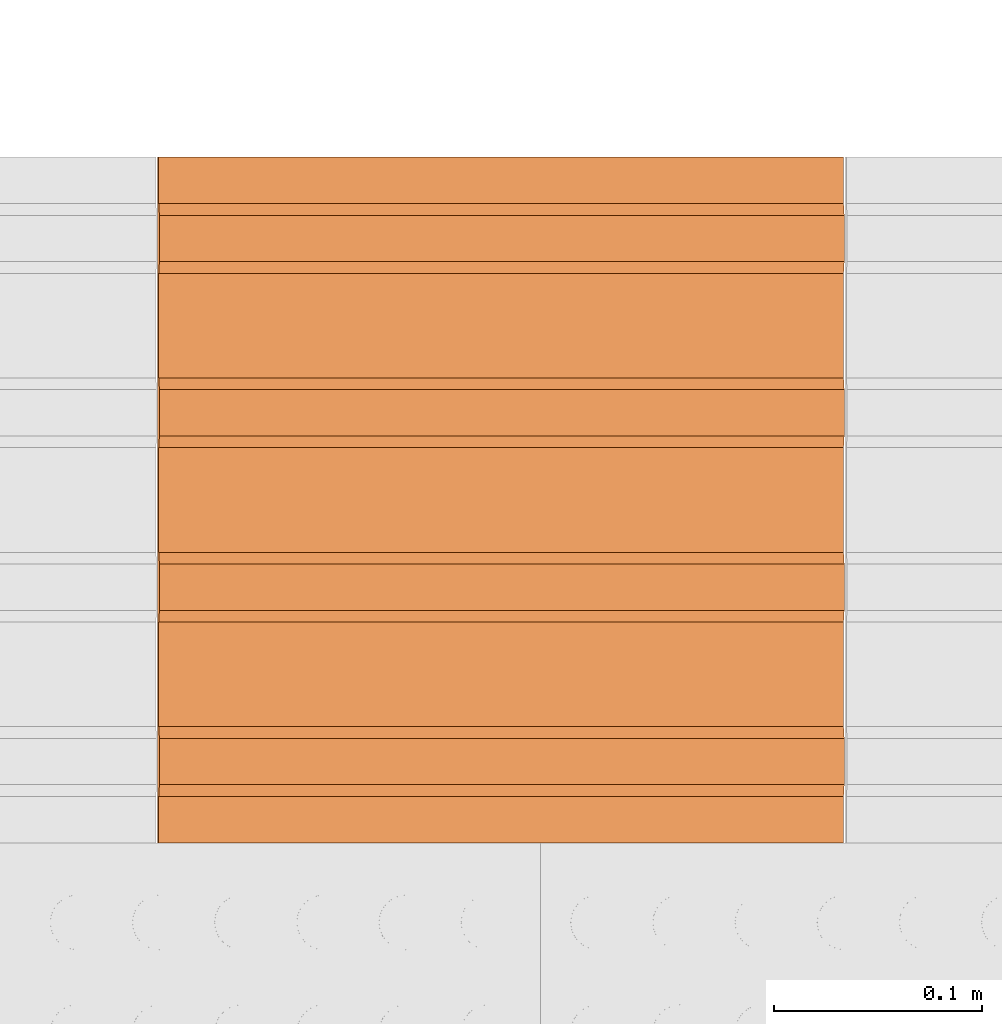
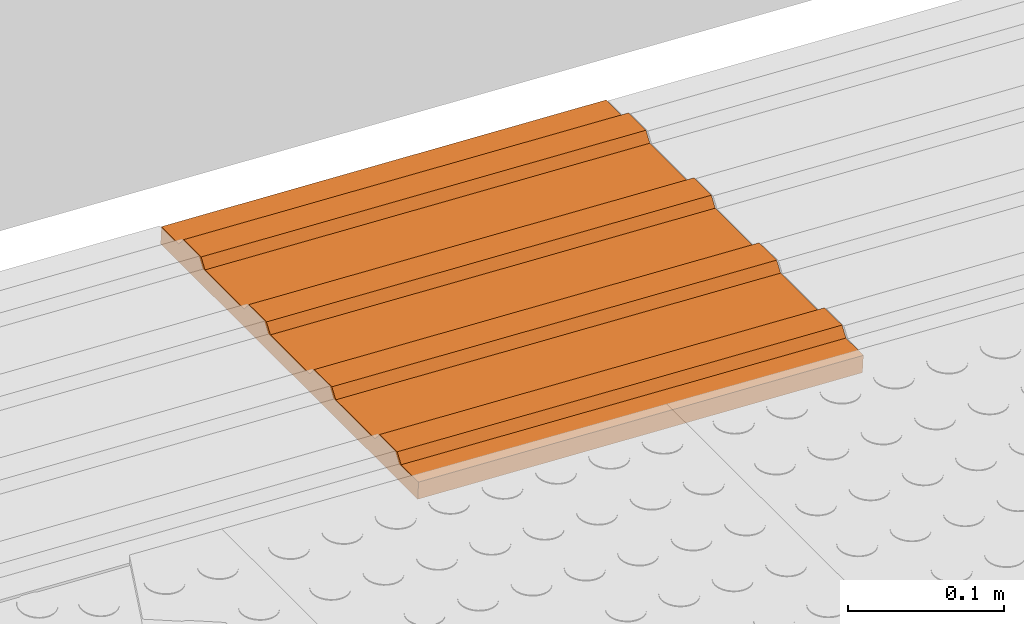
# One storey, part 160 of 237: 1 proxy.
"""IFC2X3 building model written with IfcOpenShell, lengths in millimetres."""

import ifcopenshell
import ifcopenshell.guid

model = None  # the IFC model being written
_history = None  # IfcOwnerHistory: only IFC2X3 demands one
_inside = {}  # id of a spatial element -> (the spatial element, [elements in it])
_under = {}  # id of a project, library or spatial element -> (it, [spatial elements below it])
_declared = {}  # id of a project -> (the project, [libraries it declares])
_typed = {}  # id of a type object -> (the type object, [elements of that type])
_made_of = {}  # id of a material, layer set ... -> (it, [elements and type objects made of it])


def new_model(schema):
    """Start an empty IFC model of exactly this schema.

    Asked for "IFC4X3", IfcOpenShell would pick the latest addendum, in which some entities
    have other attributes; the version numbers below select the first issue.
    IFC2X3 requires an IfcOwnerHistory on every rooted entity: one is made here for all.
    """
    global model, _history
    if schema == "IFC4X3":
        model = ifcopenshell.file(schema_version=(4, 3, 0, 0))
    else:
        model = ifcopenshell.file(schema=schema)
    _inside.clear()
    _under.clear()
    _declared.clear()
    _typed.clear()
    _made_of.clear()
    _history = None
    if model.schema == "IFC2X3":
        org = make("IfcOrganization", Name="unknown")
        user = make(
            "IfcPersonAndOrganization",
            ThePerson=make("IfcPerson", FamilyName="unknown"),
            TheOrganization=org,
        )
        app = make(
            "IfcApplication",
            ApplicationDeveloper=org,
            Version="unknown",
            ApplicationFullName="unknown",
            ApplicationIdentifier="unknown",
        )
        _history = make(
            "IfcOwnerHistory",
            OwningUser=user,
            OwningApplication=app,
            ChangeAction="ADDED",
            CreationDate=0,
        )
    return model


def make(cls, **values):
    """One entity of the class cls with the attributes given. An attribute that is None is left unset."""
    return model.create_entity(
        cls, **{name: value for name, value in values.items() if value is not None}
    )


def entity(cls, *values):
    """Any entity or typed value of the class cls, its attributes in the order of the schema. None: left unset."""
    e = model.create_entity(cls)
    for i, value in enumerate(values):
        if value is not None:
            e[i] = value
    return e


def rooted(cls, **values):
    """An entity with a GlobalId (a new one), such as an element, a storey or a relation."""
    return make(cls, GlobalId=ifcopenshell.guid.new(), OwnerHistory=_history, **values)


def si_unit(unit_type, name, prefix=None):
    """IfcSIUnit, for example si_unit("LENGTHUNIT", "METRE", prefix="MILLI")."""
    return make("IfcSIUnit", UnitType=unit_type, Prefix=prefix, Name=name)


def converted_unit(unit_type, name, factor, base, dimensions=None, offset=None):
    """IfcConversionBasedUnit, such as the inch: factor (a typed value) times the base unit."""
    return make(
        "IfcConversionBasedUnit"
        if offset is None
        else "IfcConversionBasedUnitWithOffset",
        ConversionOffset=offset,
        Dimensions=None
        if dimensions is None
        else entity("IfcDimensionalExponents", *dimensions),
        UnitType=unit_type,
        Name=name,
        ConversionFactor=make(
            "IfcMeasureWithUnit", ValueComponent=factor, UnitComponent=base
        ),
    )


def derived_unit(unit_type, elements):
    """IfcDerivedUnit: a product of units, each with its exponent."""
    return make(
        "IfcDerivedUnit",
        Elements=[
            make("IfcDerivedUnitElement", Unit=unit, Exponent=power)
            for unit, power in elements
        ],
        UnitType=unit_type,
    )


def money_unit(currency):
    """IfcMonetaryUnit."""
    return make("IfcMonetaryUnit", Currency=currency)


def assignment(units):
    """IfcUnitAssignment: the units of a project."""
    return None if units is None else make("IfcUnitAssignment", Units=units)


def point(xyz):
    """IfcCartesianPoint."""
    return None if xyz is None else make("IfcCartesianPoint", Coordinates=xyz)


def direction(xyz):
    """IfcDirection."""
    return None if xyz is None else make("IfcDirection", DirectionRatios=xyz)


def frame(location, z_axis=None, x_axis=None):
    """IfcAxis2Placement3D, a coordinate frame: its origin and axes. An axis left out is left unset."""
    return make(
        "IfcAxis2Placement3D",
        Location=point(location),
        Axis=direction(z_axis),
        RefDirection=direction(x_axis),
    )


def origin_with_axes():
    """The frame at (0, 0, 0) with the z axis (0, 0, 1) and the x axis (1, 0, 0) written out."""
    return frame((0.0, 0.0, 0.0), z_axis=(0.0, 0.0, 1.0), x_axis=(1.0, 0.0, 0.0))


def place(relative_to, where):
    """IfcLocalPlacement: puts the frame where relative to a parent placement (None: the world)."""
    return make(
        "IfcLocalPlacement", PlacementRelTo=relative_to, RelativePlacement=where
    )


def context(
    kind, dimensions, precision=None, world=None, true_north=None, identifier=None
):
    """IfcGeometricRepresentationContext, for example the 3D "Model" context."""
    return make(
        "IfcGeometricRepresentationContext",
        ContextIdentifier=identifier,
        ContextType=kind,
        CoordinateSpaceDimension=dimensions,
        Precision=precision,
        WorldCoordinateSystem=world,
        TrueNorth=true_north,
    )


def subcontext(parent, identifier, kind, view, scale=None):
    """IfcGeometricRepresentationSubContext, for example "Body" below "Model"."""
    return make(
        "IfcGeometricRepresentationSubContext",
        ContextIdentifier=identifier,
        ContextType=kind,
        ParentContext=parent,
        TargetScale=scale,
        TargetView=view,
    )


def project(units=None, contexts=None):
    """IfcProject with its units and contexts."""
    return rooted(
        "IfcProject",
        Name="project",
        RepresentationContexts=contexts,
        UnitsInContext=assignment(units),
    )


def spatial(cls, under=None, at=None, **own):
    """A site, building, storey or space (cls), placed at a placement, below another one or the project."""
    s = rooted(cls, ObjectPlacement=at, **own)
    if under is not None:
        _under.setdefault(under.id(), (under, []))[1].append(s)
    return s


def faces_of(points, faces, orient=None, outer=None):
    """IfcFace entities. A face is a list of loops; a loop is a list of indices into points, from 0.

    orient and outer hold one flag for each loop. By default every Orientation is true, the
    first loop of a face is its IfcFaceOuterBound and the others are IfcFaceBound.
    """
    made = []
    for i, loops in enumerate(faces):
        bounds = []
        for j, loop in enumerate(loops):
            is_outer = j == 0 if outer is None else outer[i][j]
            bounds.append(
                make(
                    "IfcFaceOuterBound" if is_outer else "IfcFaceBound",
                    Bound=make("IfcPolyLoop", Polygon=[points[k] for k in loop]),
                    Orientation=True if orient is None else orient[i][j],
                )
            )
        made.append(make("IfcFace", Bounds=bounds))
    return made


def open_shell(faces, orient=None, outer=None):
    """The faces of one IfcOpenShell. surface_model builds it on its shared points."""
    return ("IfcOpenShell", faces, orient, outer)


def surface_model(cls, points, shells):
    """IfcFaceBasedSurfaceModel or IfcShellBasedSurfaceModel (cls): surfaces that need not close."""
    shared = [point(p) for p in points]
    made = [make(c, CfsFaces=faces_of(shared, fs, o, b)) for c, fs, o, b in shells]
    if cls == "IfcFaceBasedSurfaceModel":
        return make(cls, FbsmFaces=made)
    return make(cls, SbsmBoundary=made)


def shape(context_of_items, identifier, shape_type, items):
    """IfcShapeRepresentation: the items that make up one representation, for example the "Body"."""
    return make(
        "IfcShapeRepresentation",
        ContextOfItems=context_of_items,
        RepresentationIdentifier=identifier,
        RepresentationType=shape_type,
        Items=items,
    )


def source(mapping_origin, context_of_items, identifier, shape_type, items):
    """IfcRepresentationMap: a shape defined once, which mapped items show again and again."""
    return make(
        "IfcRepresentationMap",
        MappingOrigin=mapping_origin,
        MappedRepresentation=shape(context_of_items, identifier, shape_type, items),
    )


def transform(
    local_origin,
    x_axis=None,
    y_axis=None,
    z_axis=None,
    scale=None,
    scale2=None,
    scale3=None,
    uniform=True,
):
    """IfcCartesianTransformationOperator3D, or its non-uniform kind. x_axis, y_axis, z_axis: its Axis1, 2, 3."""
    if uniform:
        return make(
            "IfcCartesianTransformationOperator3D",
            Axis1=direction(x_axis),
            Axis2=direction(y_axis),
            LocalOrigin=point(local_origin),
            Scale=scale,
            Axis3=direction(z_axis),
        )
    return make(
        "IfcCartesianTransformationOperator3DnonUniform",
        Axis1=direction(x_axis),
        Axis2=direction(y_axis),
        LocalOrigin=point(local_origin),
        Scale=scale,
        Axis3=direction(z_axis),
        Scale2=scale2,
        Scale3=scale3,
    )


def mapped(mapping_source, mapping_target):
    """IfcMappedItem: shows the shape of a source again, moved by a transform."""
    return make(
        "IfcMappedItem", MappingSource=mapping_source, MappingTarget=mapping_target
    )


def made_of(thing, what):
    """Note that an element or type object is made of a material, layer set ...; save() writes the relation."""
    if what is not None:
        _made_of.setdefault(what.id(), (what, []))[1].append(thing)
    return thing


def type_object(cls, material=None, **own):
    """A type object (cls), such as IfcWallType, which elements share."""
    return made_of(rooted(cls, **own), material)


def element(
    cls,
    number,
    at=None,
    inside=None,
    cuts=None,
    type_object=None,
    material=None,
    context=None,
    identifier="Body",
    shape_type=None,
    held_by="IfcProductDefinitionShape",
    body=None,
    shapes=None,
    **own,
):
    """One element of the class cls, such as IfcWall. Its Tag is "e" and its number.

    at: its placement. inside: the storey or other place that contains it. cuts: it is an
    opening in that element (IfcRelVoidsElement). A single representation is given by context,
    identifier, shape_type and body (its items); several are given by shapes. held_by: the class
    of the entity that holds the representations. save() writes the other relations.
    """
    e = rooted(cls, Tag="e%d" % number, ObjectPlacement=at, **own)
    if body is not None:
        shapes = [shape(context, identifier, shape_type, body)]
    if shapes is not None:
        e.Representation = make(held_by, Representations=shapes)
    if inside is not None:
        _inside.setdefault(inside.id(), (inside, []))[1].append(e)
    if cuts is not None:
        rooted(
            "IfcRelVoidsElement", RelatingBuildingElement=cuts, RelatedOpeningElement=e
        )
    if type_object is not None:
        _typed.setdefault(type_object.id(), (type_object, []))[1].append(e)
    return made_of(e, material)


def aggregate(whole, parts):
    """IfcRelAggregates: a whole, such as a stair, and the parts it consists of."""
    return rooted("IfcRelAggregates", RelatingObject=whole, RelatedObjects=parts)


def save(model, path):
    """Write the relations noted so far, then the file.

    IfcRelAggregates (storeys below a building ...), IfcRelContainedInSpatialStructure (elements
    in a storey), IfcRelDefinesByType, IfcRelAssociatesMaterial and IfcRelDeclares: one each for
    every whole, place, type object, material and project.
    """
    for whole, parts in _under.values():
        aggregate(whole, parts)
    for where, things in _inside.values():
        rooted(
            "IfcRelContainedInSpatialStructure",
            RelatedElements=things,
            RelatingStructure=where,
        )
    for kind, things in _typed.values():
        rooted("IfcRelDefinesByType", RelatedObjects=things, RelatingType=kind)
    for what, things in _made_of.values():
        rooted("IfcRelAssociatesMaterial", RelatedObjects=things, RelatingMaterial=what)
    for by, libraries in _declared.values():
        rooted("IfcRelDeclares", RelatingContext=by, RelatedDefinitions=libraries)
    model.write(path)


model = new_model("IFC2X3")

# Units and contexts
model_context = context("Model", 3, precision=0.01, world=origin_with_axes(), true_north=direction((0.0, 1.0)))
body_context = subcontext(model_context, "Body", "Model", "MODEL_VIEW")
ifc_project = project(units=[si_unit("LENGTHUNIT", "METRE", prefix="MILLI"), si_unit("AREAUNIT", "SQUARE_METRE"), si_unit("VOLUMEUNIT", "CUBIC_METRE"), converted_unit("PLANEANGLEUNIT", "DEGREE", entity("IfcPlaneAngleMeasure", 0.0174532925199), si_unit("PLANEANGLEUNIT", "RADIAN"), dimensions=[0, 0, 0, 0, 0, 0, 0]), money_unit("USD"), converted_unit("TIMEUNIT", "Year", entity("IfcTimeMeasure", 31556926.0), si_unit("TIMEUNIT", "SECOND"), dimensions=[0, 0, 1, 0, 0, 0, 0]), si_unit("MASSUNIT", "GRAM", prefix="KILO"), si_unit("THERMODYNAMICTEMPERATUREUNIT", "DEGREE_CELSIUS"), si_unit("LUMINOUSINTENSITYUNIT", "LUMEN"), si_unit("ENERGYUNIT", "JOULE", prefix="MEGA"), derived_unit("THERMALCONDUCTANCEUNIT", [(si_unit("POWERUNIT", "WATT"), 1), (si_unit("LENGTHUNIT", "METRE"), -1), (si_unit("THERMODYNAMICTEMPERATUREUNIT", "KELVIN"), -1)]), derived_unit("SPECIFICHEATCAPACITYUNIT", [(si_unit("ENERGYUNIT", "JOULE"), 1), (si_unit("MASSUNIT", "GRAM", prefix="KILO"), -1), (si_unit("THERMODYNAMICTEMPERATUREUNIT", "KELVIN"), -1)]), derived_unit("MASSDENSITYUNIT", [(si_unit("MASSUNIT", "GRAM", prefix="KILO"), 1), (si_unit("VOLUMEUNIT", "CUBIC_METRE"), -1)])], contexts=[model_context])

# Site, building, storey
site_placement = place(None, origin_with_axes())
site = spatial("IfcSite", under=ifc_project, at=site_placement, Name="Local", CompositionType="ELEMENT")
building_placement = place(site_placement, origin_with_axes())
building = spatial("IfcBuilding", under=site, at=building_placement, Name="Construção", CompositionType="ELEMENT")
storey_placement = place(building_placement, origin_with_axes())
storey = spatial("IfcBuildingStorey", under=building, at=storey_placement, Name="Pavimento Térreo", CompositionType="ELEMENT", Elevation=0.0)

# Proxy
building_element_proxy_type = type_object("IfcBuildingElementProxyType", Name="Piso Direcional 27", PredefinedType="NOTDEFINED")
shared_shape = source(origin_with_axes(), body_context, "Body", "SurfaceModel", [
    surface_model("IfcShellBasedSurfaceModel", [(-0.196792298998, -47.258225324, 4.02371099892), (329.409233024, -47.258225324, 20.1441350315), (329.083567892, -41.665004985, 26.8028426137), (-0.522457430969, -41.665004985, 10.6824185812)], [open_shell([[[0, 1, 2, 3]]])]),
    surface_model("IfcShellBasedSurfaceModel", [(330.060563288, -153.529411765, 6.82671986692), (330.060563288, 176.470588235, 6.82671986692), (329.409233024, 176.470588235, 20.1441350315), (329.409233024, 154.097706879, 20.1441350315), (329.083567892, 148.50448654, 26.8028426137), (329.083567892, 126.131605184, 26.8028426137), (329.409233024, 120.538384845, 20.1441350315), (329.409233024, 70.1994017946, 20.1441350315), (329.083567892, 64.6061814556, 26.8028426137), (329.083567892, 42.2333000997, 26.8028426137), (329.409233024, 36.6400797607, 20.1441350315), (329.409233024, -13.6989032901, 20.1441350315), (329.083567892, -19.2921236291, 26.8028426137), (329.083567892, -41.665004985, 26.8028426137), (329.409233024, -47.258225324, 20.1441350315), (329.409233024, -97.5972083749, 20.1441350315), (329.083567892, -103.190428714, 26.8028426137), (329.083567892, -125.56331007, 26.8028426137), (329.409233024, -131.156530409, 20.1441350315), (329.409233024, -153.529411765, 20.1441350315)], [open_shell([[[0, 1, 2, 3, 4, 5, 6, 7, 8, 9, 10, 11, 12, 13, 14, 15, 16, 17, 18, 19]]])]),
    surface_model("IfcShellBasedSurfaceModel", [(-0.522457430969, -19.2921236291, 10.6824185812), (329.083567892, -19.2921236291, 26.8028426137), (329.409233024, -13.6989032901, 20.1441350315), (-0.196792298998, -13.6989032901, 4.02371099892)], [open_shell([[[0, 1, 2, 3]]])]),
    surface_model("IfcShellBasedSurfaceModel", [(-0.522457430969, -103.190428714, 10.6824185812), (329.083567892, -103.190428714, 26.8028426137), (329.409233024, -97.5972083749, 20.1441350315), (-0.196792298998, -97.5972083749, 4.02371099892)], [open_shell([[[0, 1, 2, 3]]])]),
    surface_model("IfcShellBasedSurfaceModel", [(-0.522457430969, 64.6061814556, 10.6824185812), (329.083567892, 64.6061814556, 26.8028426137), (329.409233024, 70.1994017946, 20.1441350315), (-0.196792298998, 70.1994017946, 4.02371099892)], [open_shell([[[0, 1, 2, 3]]])]),
    surface_model("IfcShellBasedSurfaceModel", [(-0.196792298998, 36.6400797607, 4.02371099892), (329.409233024, 36.6400797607, 20.1441350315), (329.083567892, 42.2333000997, 26.8028426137), (-0.522457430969, 42.2333000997, 10.6824185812)], [open_shell([[[0, 1, 2, 3]]])]),
    surface_model("IfcShellBasedSurfaceModel", [(-0.196792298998, -131.156530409, 4.02371099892), (329.409233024, -131.156530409, 20.1441350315), (329.083567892, -125.56331007, 26.8028426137), (-0.522457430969, -125.56331007, 10.6824185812)], [open_shell([[[0, 1, 2, 3]]])]),
    surface_model("IfcShellBasedSurfaceModel", [(-0.196792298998, 176.470588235, 4.02371099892), (-0.196792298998, 154.097706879, 4.02371099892), (329.409233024, 154.097706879, 20.1441350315), (329.409233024, 176.470588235, 20.1441350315)], [open_shell([[[0, 1, 2, 3]]])]),
    surface_model("IfcShellBasedSurfaceModel", [(-0.196792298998, 120.538384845, 4.02371099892), (329.409233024, 120.538384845, 20.1441350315), (329.083567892, 126.131605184, 26.8028426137), (-0.522457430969, 126.131605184, 10.6824185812)], [open_shell([[[0, 1, 2, 3]]])]),
    surface_model("IfcShellBasedSurfaceModel", [(-0.522457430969, 148.50448654, 10.6824185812), (329.083567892, 148.50448654, 26.8028426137), (329.409233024, 154.097706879, 20.1441350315), (-0.196792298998, 154.097706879, 4.02371099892)], [open_shell([[[0, 1, 2, 3]]])]),
    surface_model("IfcShellBasedSurfaceModel", [(-0.196792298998, 36.6400797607, 4.02371099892), (-0.196792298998, -13.6989032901, 4.02371099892), (329.409233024, -13.6989032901, 20.1441350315), (329.409233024, 36.6400797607, 20.1441350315)], [open_shell([[[0, 1, 2, 3]]])]),
    surface_model("IfcShellBasedSurfaceModel", [(-0.196792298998, 120.538384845, 4.02371099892), (-0.196792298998, 70.1994017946, 4.02371099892), (329.409233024, 70.1994017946, 20.1441350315), (329.409233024, 120.538384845, 20.1441350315)], [open_shell([[[0, 1, 2, 3]]])]),
    surface_model("IfcShellBasedSurfaceModel", [(-0.522457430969, 148.50448654, 10.6824185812), (-0.522457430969, 126.131605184, 10.6824185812), (329.083567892, 126.131605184, 26.8028426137), (329.083567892, 148.50448654, 26.8028426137)], [open_shell([[[0, 1, 2, 3]]])]),
    surface_model("IfcShellBasedSurfaceModel", [(-0.196792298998, 120.538384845, 4.02371099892), (-0.522457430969, 126.131605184, 10.6824185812), (-0.522457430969, 148.50448654, 10.6824185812), (-0.196792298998, 154.097706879, 4.02371099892), (-0.196792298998, 176.470588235, 4.02371099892), (0.454537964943, 176.470588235, -9.29370416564), (0.454537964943, -153.529411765, -9.29370416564), (-0.196792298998, -153.529411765, 4.02371099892), (-0.196792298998, -131.156530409, 4.02371099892), (-0.522457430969, -125.56331007, 10.6824185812), (-0.522457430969, -103.190428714, 10.6824185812), (-0.196792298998, -97.5972083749, 4.02371099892), (-0.196792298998, -47.258225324, 4.02371099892), (-0.522457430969, -41.665004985, 10.6824185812), (-0.522457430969, -19.2921236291, 10.6824185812), (-0.196792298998, -13.6989032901, 4.02371099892), (-0.196792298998, 36.6400797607, 4.02371099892), (-0.522457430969, 42.2333000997, 10.6824185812), (-0.522457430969, 64.6061814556, 10.6824185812), (-0.196792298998, 70.1994017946, 4.02371099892)], [open_shell([[[0, 1, 2, 3, 4, 5, 6, 7, 8, 9, 10, 11, 12, 13, 14, 15, 16, 17, 18, 19]]])]),
    surface_model("IfcShellBasedSurfaceModel", [(329.083567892, -41.665004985, 26.8028426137), (329.083567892, -19.2921236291, 26.8028426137), (-0.522457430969, -19.2921236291, 10.6824185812), (-0.522457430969, -41.665004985, 10.6824185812)], [open_shell([[[0, 1, 2, 3]]])]),
    surface_model("IfcShellBasedSurfaceModel", [(-0.196792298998, -47.258225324, 4.02371099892), (-0.196792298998, -97.5972083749, 4.02371099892), (329.409233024, -97.5972083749, 20.1441350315), (329.409233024, -47.258225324, 20.1441350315)], [open_shell([[[0, 1, 2, 3]]])]),
    surface_model("IfcShellBasedSurfaceModel", [(329.083567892, 42.2333000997, 26.8028426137), (329.083567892, 64.6061814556, 26.8028426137), (-0.522457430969, 64.6061814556, 10.6824185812), (-0.522457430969, 42.2333000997, 10.6824185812)], [open_shell([[[0, 1, 2, 3]]])]),
    surface_model("IfcShellBasedSurfaceModel", [(329.083567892, -125.56331007, 26.8028426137), (329.083567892, -103.190428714, 26.8028426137), (-0.522457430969, -103.190428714, 10.6824185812), (-0.522457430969, -125.56331007, 10.6824185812)], [open_shell([[[0, 1, 2, 3]]])]),
    surface_model("IfcShellBasedSurfaceModel", [(330.060563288, 176.470588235, 6.82671986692), (0.454537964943, 176.470588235, -9.29370416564), (-0.196792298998, 176.470588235, 4.02371099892), (329.409233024, 176.470588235, 20.1441350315)], [open_shell([[[0, 1, 2, 3]]])]),
    surface_model("IfcShellBasedSurfaceModel", [(330.060563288, -153.529411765, 6.82671986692), (0.454537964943, -153.529411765, -9.29370416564), (0.454537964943, 176.470588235, -9.29370416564), (330.060563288, 176.470588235, 6.82671986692)], [open_shell([[[0, 1, 2, 3]]])]),
    surface_model("IfcShellBasedSurfaceModel", [(329.409233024, -153.529411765, 20.1441350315), (329.409233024, -131.156530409, 20.1441350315), (-0.196792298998, -131.156530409, 4.02371099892), (-0.196792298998, -153.529411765, 4.02371099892)], [open_shell([[[0, 1, 2, 3]]])]),
    surface_model("IfcShellBasedSurfaceModel", [(0.454537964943, -153.529411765, -9.29370416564), (330.060563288, -153.529411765, 6.82671986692), (329.409233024, -153.529411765, 20.1441350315), (-0.196792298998, -153.529411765, 4.02371099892)], [open_shell([[[0, 1, 2, 3]]])]),
])
proxy_placement = place(storey_placement, frame((32066.4698574, 10834.0941893, -2627.67542392), z_axis=(0.0, 0.0, 1.0), x_axis=(-1.0, 0.0, 0.0)))
element("IfcBuildingElementProxy", 1, at=proxy_placement, inside=storey, type_object=building_element_proxy_type, Name="Objeto-0055", context=body_context, shape_type="MappedRepresentation", body=[
    mapped(shared_shape, transform((0.0, 0.0, 0.0))),
])

save(model, "model.ifc")
